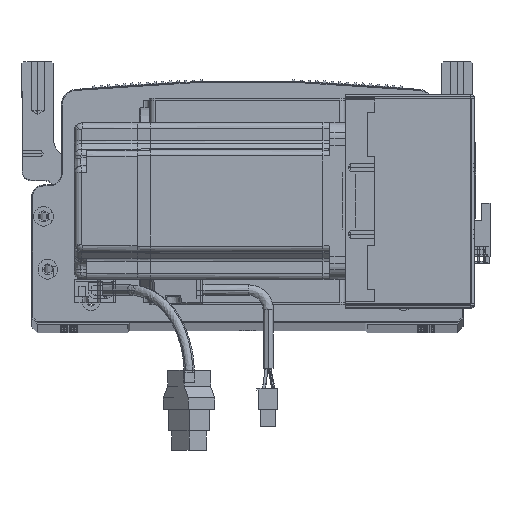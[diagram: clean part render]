
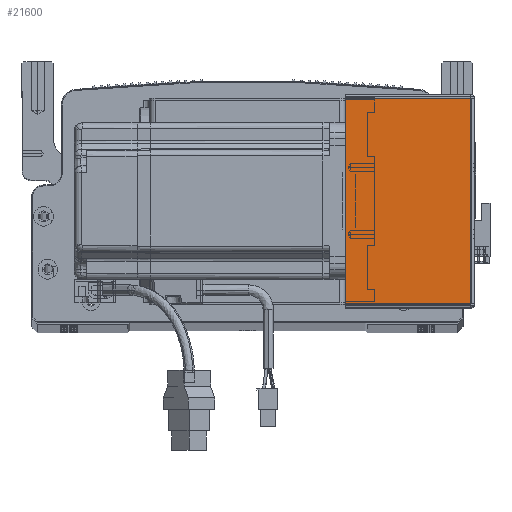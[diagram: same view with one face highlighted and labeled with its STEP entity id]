
A CAD part, top view. The second image highlights one B-rep face of the part: STEP entity #21600.
In plain terms, the highlighted planar face has unit normal (0, 0, 1) as drawn and (0, 0, -1) by its records, which use the part's own axes.
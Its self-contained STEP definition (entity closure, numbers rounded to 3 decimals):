
#2785 = DIRECTION ( 'NONE',  ( 0., 0., 1. ) ) ;
#6795 = LINE ( 'NONE', #54921, #65557 ) ;
#7048 = CARTESIAN_POINT ( 'NONE',  ( 0.737, 105.293, -205.5 ) ) ;
#11478 = VERTEX_POINT ( 'NONE', #7048 ) ;
#12753 = CARTESIAN_POINT ( 'NONE',  ( 0.737, 0.707, -205.5 ) ) ;
#13175 = VECTOR ( 'NONE', #25351, 1000. ) ;
#16685 = CARTESIAN_POINT ( 'NONE',  ( 0., 0., -205.5 ) ) ;
#21355 = DIRECTION ( 'NONE',  ( 0., -1., 0. ) ) ;
#21600 = ADVANCED_FACE ( 'NONE', ( #34556 ), #83533, .F. ) ;
#23666 = CARTESIAN_POINT ( 'NONE',  ( 64.5, 0.707, -205.5 ) ) ;
#25351 = DIRECTION ( 'NONE',  ( 0., -1., 0. ) ) ;
#26298 = VERTEX_POINT ( 'NONE', #85583 ) ;
#28114 = CARTESIAN_POINT ( 'NONE',  ( 0.737, 0., -205.5 ) ) ;
#34556 = FACE_OUTER_BOUND ( 'NONE', #61233, .T. ) ;
#37966 = ORIENTED_EDGE ( 'NONE', *, *, #52597, .T. ) ;
#40217 = DIRECTION ( 'NONE',  ( 1., 0., 0. ) ) ;
#44495 = ORIENTED_EDGE ( 'NONE', *, *, #69542, .F. ) ;
#46684 = EDGE_CURVE ( 'NONE', #72696, #57763, #86179, .T. ) ;
#48161 = DIRECTION ( 'NONE',  ( 1., 0., 0. ) ) ;
#52597 = EDGE_CURVE ( 'NONE', #26298, #57763, #75397, .T. ) ;
#54921 = CARTESIAN_POINT ( 'NONE',  ( 0., 105.293, -205.5 ) ) ;
#56943 = EDGE_CURVE ( 'NONE', #11478, #26298, #6795, .T. ) ;
#57244 = AXIS2_PLACEMENT_3D ( 'NONE', #16685, #2785, #68770 ) ;
#57763 = VERTEX_POINT ( 'NONE', #23666 ) ;
#60655 = ORIENTED_EDGE ( 'NONE', *, *, #46684, .F. ) ;
#61233 = EDGE_LOOP ( 'NONE', ( #44495, #62400, #37966, #60655 ) ) ;
#62174 = LINE ( 'NONE', #28114, #70188 ) ;
#62400 = ORIENTED_EDGE ( 'NONE', *, *, #56943, .T. ) ;
#65557 = VECTOR ( 'NONE', #48161, 1000. ) ;
#68770 = DIRECTION ( 'NONE',  ( 1., 0., 0. ) ) ;
#68961 = VECTOR ( 'NONE', #40217, 1000. ) ;
#69542 = EDGE_CURVE ( 'NONE', #11478, #72696, #62174, .T. ) ;
#70188 = VECTOR ( 'NONE', #21355, 1000. ) ;
#72696 = VERTEX_POINT ( 'NONE', #12753 ) ;
#75397 = LINE ( 'NONE', #90280, #13175 ) ;
#83533 = PLANE ( 'NONE',  #57244 ) ;
#84004 = CARTESIAN_POINT ( 'NONE',  ( 0., 0.707, -205.5 ) ) ;
#85583 = CARTESIAN_POINT ( 'NONE',  ( 64.5, 105.293, -205.5 ) ) ;
#86179 = LINE ( 'NONE', #84004, #68961 ) ;
#90280 = CARTESIAN_POINT ( 'NONE',  ( 64.5, 0., -205.5 ) ) ;
